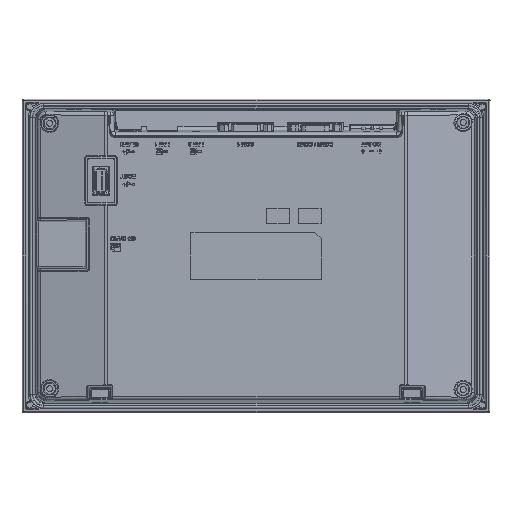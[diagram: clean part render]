
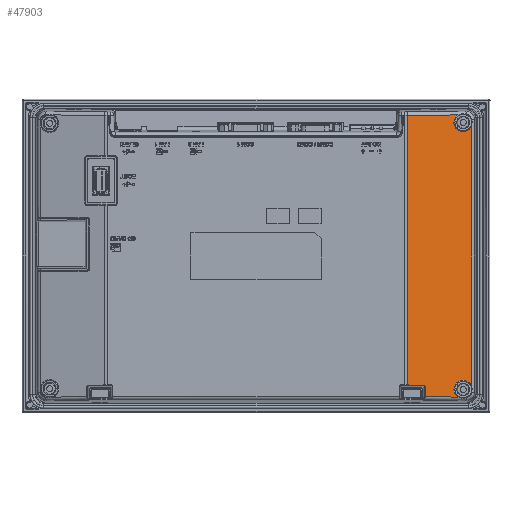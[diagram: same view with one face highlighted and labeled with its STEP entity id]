
A CAD part, front view. The second image highlights one B-rep face of the part: STEP entity #47903.
In plain terms, the highlighted planar face has unit normal (0.196, -0.981, 0).
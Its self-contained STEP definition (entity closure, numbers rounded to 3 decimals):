
#9141=CARTESIAN_POINT('',(87.483,-40.075,
-74.385));
#9157=CARTESIAN_POINT('',(87.483,-40.075,81.052));
#10762=DIRECTION('',(0.,0.,1.));
#10763=VECTOR('',#10762,155.437);
#10764=CARTESIAN_POINT('',(87.483,-40.075,
-74.385));
#10765=LINE('',#10764,#10763);
#10766=DIRECTION('',(0.981,0.196,0.01));
#10767=VECTOR('',#10766,29.564);
#10768=CARTESIAN_POINT('',(87.483,-40.075,
81.052));
#10769=LINE('',#10768,#10767);
#10770=CARTESIAN_POINT('',(114.152,-34.741,
77.));
#10771=CARTESIAN_POINT('',(114.138,-34.744,
76.636));
#10772=CARTESIAN_POINT('',(114.226,-34.727,
75.877));
#10773=CARTESIAN_POINT('',(114.663,-34.639,
74.597));
#10774=CARTESIAN_POINT('',(115.534,-34.465,
73.329));
#10775=CARTESIAN_POINT('',(116.768,-34.218,
72.377));
#10776=CARTESIAN_POINT('',(118.255,-33.921,
71.797));
#10777=CARTESIAN_POINT('',(119.74,-33.624,
71.685));
#10778=CARTESIAN_POINT('',(121.259,-33.32,
72.03));
#10779=CARTESIAN_POINT('',(122.509,-33.07,
72.65));
#10780=CARTESIAN_POINT('',(123.756,-32.821,
73.937));
#10781=CARTESIAN_POINT('',(124.184,-32.735,
74.753));
#10782=CARTESIAN_POINT('',(124.331,-32.706,
75.192));
#10784=CARTESIAN_POINT('',(114.152,-34.741,
-77.));
#10785=CARTESIAN_POINT('',(114.146,-34.743,
-77.392));
#10786=CARTESIAN_POINT('',(114.232,-34.725,
-78.169));
#10787=CARTESIAN_POINT('',(114.691,-34.634,
-79.425));
#10788=CARTESIAN_POINT('',(115.358,-34.5,
-80.439));
#10789=CARTESIAN_POINT('',(116.064,-34.359,
-81.065));
#10790=CARTESIAN_POINT('',(116.472,-34.278,
-81.356));
#10792=DIRECTION('',(-0.981,-0.196,0.01));
#10793=VECTOR('',#10792,19.338);
#10794=CARTESIAN_POINT('',(116.472,-34.278,
-81.356));
#10795=LINE('',#10794,#10793);
#10796=DIRECTION('',(0.,0.,1.));
#10797=VECTOR('',#10796,5.903);
#10798=CARTESIAN_POINT('',(97.51,-38.07,
-81.157));
#10799=LINE('',#10798,#10797);
#10800=CARTESIAN_POINT('',(97.51,-38.07,
-75.255));
#10801=CARTESIAN_POINT('',(97.512,-38.069,
-75.154));
#10802=CARTESIAN_POINT('',(97.479,-38.076,
-74.963));
#10803=CARTESIAN_POINT('',(97.289,-38.114,
-74.668));
#10804=CARTESIAN_POINT('',(97.039,-38.164,
-74.501));
#10805=CARTESIAN_POINT('',(96.831,-38.206,
-74.455));
#10806=CARTESIAN_POINT('',(96.716,-38.229,
-74.45));
#10813=DIRECTION('',(0.981,0.196,-0.007));
#10814=VECTOR('',#10813,9.416);
#10815=CARTESIAN_POINT('',(87.483,-40.075,
-74.385));
#10816=LINE('',#10815,#10814);
#10834=CARTESIAN_POINT('',(114.152,-34.741,
77.));
#10835=CARTESIAN_POINT('',(114.165,-34.739,
77.475));
#10836=CARTESIAN_POINT('',(114.274,-34.717,
78.361));
#10837=CARTESIAN_POINT('',(114.737,-34.624,
79.497));
#10838=CARTESIAN_POINT('',(115.362,-34.499,
80.436));
#10839=CARTESIAN_POINT('',(116.064,-34.359,
81.057));
#10840=CARTESIAN_POINT('',(116.472,-34.278,
81.356));
#10968=DIRECTION('',(0.,0.,1.));
#10969=VECTOR('',#10968,150.383);
#10970=CARTESIAN_POINT('',(124.331,-32.706,
-75.192));
#10971=LINE('',#10970,#10969);
#11025=CARTESIAN_POINT('',(114.152,-34.741,
-77.));
#11026=CARTESIAN_POINT('',(114.162,-34.739,
-76.481));
#11027=CARTESIAN_POINT('',(114.306,-34.711,
-75.499));
#11028=CARTESIAN_POINT('',(114.832,-34.605,
-74.282));
#11029=CARTESIAN_POINT('',(115.836,-34.405,
-73.054));
#11030=CARTESIAN_POINT('',(116.982,-34.175,
-72.271));
#11031=CARTESIAN_POINT('',(118.336,-33.905,
-71.791));
#11032=CARTESIAN_POINT('',(119.846,-33.603,
-71.695));
#11033=CARTESIAN_POINT('',(121.315,-33.309,
-72.038));
#11034=CARTESIAN_POINT('',(122.584,-33.055,
-72.74));
#11035=CARTESIAN_POINT('',(123.663,-32.839,
-73.807));
#11036=CARTESIAN_POINT('',(124.142,-32.743,
-74.696));
#11037=CARTESIAN_POINT('',(124.331,-32.706,
-75.192));
#26778=CARTESIAN_POINT('',(97.51,-38.07,
-75.255));
#26779=VERTEX_POINT('',#26778);
#26780=CARTESIAN_POINT('',(97.51,-38.07,
-81.157));
#26781=VERTEX_POINT('',#26780);
#26782=CARTESIAN_POINT('',(96.716,-38.229,
-74.45));
#26784=VERTEX_POINT('',#26782);
#26805=VERTEX_POINT('',#9141);
#26808=VERTEX_POINT('',#9157);
#27694=CARTESIAN_POINT('',(116.472,-34.278,
81.356));
#27695=VERTEX_POINT('',#27694);
#27696=VERTEX_POINT('',#10784);
#27697=VERTEX_POINT('',#10790);
#27699=VERTEX_POINT('',#10834);
#27711=CARTESIAN_POINT('',(124.331,-32.706,
-75.192));
#27712=CARTESIAN_POINT('',(124.331,-32.706,
75.192));
#27713=VERTEX_POINT('',#27711);
#27714=VERTEX_POINT('',#27712);
#47878=CARTESIAN_POINT('',(105.907,-36.39,
0.));
#47879=DIRECTION('',(-0.196,0.981,0.));
#47880=DIRECTION('',(0.981,0.196,0.));
#47881=AXIS2_PLACEMENT_3D('',#47878,#47879,#47880);
#47882=PLANE('',#47881);
#47884=ORIENTED_EDGE('',*,*,#47883,.F.);
#47885=ORIENTED_EDGE('',*,*,#44958,.T.);
#47887=ORIENTED_EDGE('',*,*,#47886,.T.);
#47889=ORIENTED_EDGE('',*,*,#47888,.F.);
#47891=ORIENTED_EDGE('',*,*,#47890,.T.);
#47893=ORIENTED_EDGE('',*,*,#47892,.F.);
#47895=ORIENTED_EDGE('',*,*,#47894,.F.);
#47896=ORIENTED_EDGE('',*,*,#47868,.T.);
#47898=ORIENTED_EDGE('',*,*,#47897,.T.);
#47899=ORIENTED_EDGE('',*,*,#44525,.T.);
#47900=ORIENTED_EDGE('',*,*,#44777,.T.);
#47901=EDGE_LOOP('',(#47884,#47885,#47887,#47889,#47891,#47893,#47895,#47896,
#47898,#47899,#47900));
#47902=FACE_OUTER_BOUND('',#47901,.F.);
#47903=ADVANCED_FACE('',(#47902),#47882,.F.);
#10783=B_SPLINE_CURVE_WITH_KNOTS('',3,(#10770,#10771,#10772,#10773,#10774,
#10775,#10776,#10777,#10778,#10779,#10780,#10781,#10782),.UNSPECIFIED.,.F.,.F.,(
4,1,1,1,1,1,1,1,1,1,4),(0.,0.1,0.2,0.3,0.4,0.5,0.6,0.7,0.8,
0.9,1.),.UNSPECIFIED.);
#10791=B_SPLINE_CURVE_WITH_KNOTS('',3,(#10784,#10785,#10786,#10787,#10788,
#10789,#10790),.UNSPECIFIED.,.F.,.F.,(4,1,1,1,4),(0.,0.25,0.5,0.75,
1.),.UNSPECIFIED.);
#10807=B_SPLINE_CURVE_WITH_KNOTS('',3,(#10800,#10801,#10802,#10803,#10804,
#10805,#10806),.UNSPECIFIED.,.F.,.F.,(4,1,1,1,4),(0.,0.25,0.5,0.75,
1.),.UNSPECIFIED.);
#10841=B_SPLINE_CURVE_WITH_KNOTS('',3,(#10834,#10835,#10836,#10837,#10838,
#10839,#10840),.UNSPECIFIED.,.F.,.F.,(4,1,1,1,4),(0.,0.25,0.5,0.75,
1.),.UNSPECIFIED.);
#11038=B_SPLINE_CURVE_WITH_KNOTS('',3,(#11025,#11026,#11027,#11028,#11029,
#11030,#11031,#11032,#11033,#11034,#11035,#11036,#11037),.UNSPECIFIED.,.F.,.F.,(
4,1,1,1,1,1,1,1,1,1,4),(0.,0.1,0.2,0.3,0.4,0.5,0.6,0.7,0.8,
0.9,1.),.UNSPECIFIED.);
#44525=EDGE_CURVE('',#26781,#26779,#10799,.T.);
#44777=EDGE_CURVE('',#26779,#26784,#10807,.T.);
#44958=EDGE_CURVE('',#26805,#26808,#10765,.T.);
#47868=EDGE_CURVE('',#27696,#27697,#10791,.T.);
#47883=EDGE_CURVE('',#26805,#26784,#10816,.T.);
#47886=EDGE_CURVE('',#26808,#27695,#10769,.T.);
#47888=EDGE_CURVE('',#27699,#27695,#10841,.T.);
#47890=EDGE_CURVE('',#27699,#27714,#10783,.T.);
#47892=EDGE_CURVE('',#27713,#27714,#10971,.T.);
#47894=EDGE_CURVE('',#27696,#27713,#11038,.T.);
#47897=EDGE_CURVE('',#27697,#26781,#10795,.T.);
